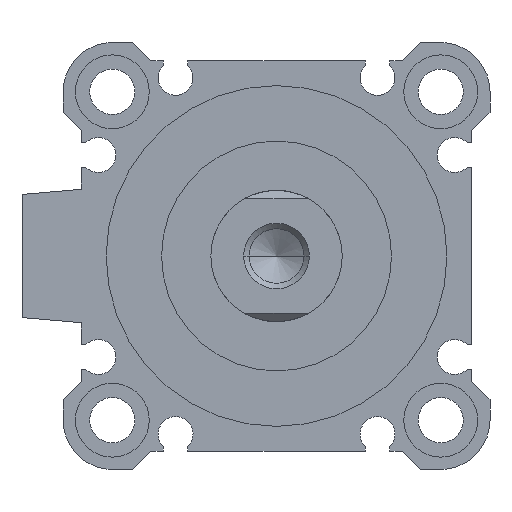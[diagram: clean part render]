
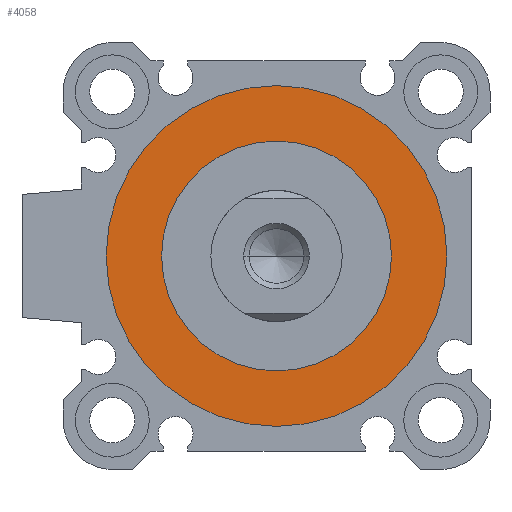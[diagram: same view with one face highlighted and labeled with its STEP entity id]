
A CAD part, left-side view. The second image highlights one B-rep face of the part: STEP entity #4058.
In plain terms, the highlighted planar face has unit normal (-1, 0, 0).
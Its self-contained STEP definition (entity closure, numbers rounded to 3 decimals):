
#44 = EDGE_CURVE ( 'NONE', #1599, #347, #1820, .T. ) ;
#128 = CIRCLE ( 'NONE', #2082, 20.75 ) ;
#277 = CARTESIAN_POINT ( 'NONE',  ( 3.3, 0., 0. ) ) ;
#347 = VERTEX_POINT ( 'NONE', #3490 ) ;
#542 = CARTESIAN_POINT ( 'NONE',  ( 3.3, 0., -14. ) ) ;
#660 = DIRECTION ( 'NONE',  ( 1., 0., 0. ) ) ;
#683 = DIRECTION ( 'NONE',  ( 0., 1., 0. ) ) ;
#803 = DIRECTION ( 'NONE',  ( 1., 0., 0. ) ) ;
#1045 = FACE_OUTER_BOUND ( 'NONE', #2586, .T. ) ;
#1047 = VERTEX_POINT ( 'NONE', #1085 ) ;
#1085 = CARTESIAN_POINT ( 'NONE',  ( 3.3, 0., 14. ) ) ;
#1087 = FACE_BOUND ( 'NONE', #3670, .T. ) ;
#1175 = DIRECTION ( 'NONE',  ( 1., 0., 0. ) ) ;
#1192 = DIRECTION ( 'NONE',  ( 0., 0., -1. ) ) ;
#1247 = AXIS2_PLACEMENT_3D ( 'NONE', #3895, #3481, #1580 ) ;
#1580 = DIRECTION ( 'NONE',  ( 0., 0., -1. ) ) ;
#1599 = VERTEX_POINT ( 'NONE', #4164 ) ;
#1705 = ORIENTED_EDGE ( 'NONE', *, *, #2866, .T. ) ;
#1807 = ORIENTED_EDGE ( 'NONE', *, *, #44, .F. ) ;
#1820 = CIRCLE ( 'NONE', #1247, 20.75 ) ;
#1899 = PLANE ( 'NONE',  #4076 ) ;
#1907 = DIRECTION ( 'NONE',  ( 0., 0., -1. ) ) ;
#1951 = CIRCLE ( 'NONE', #3249, 14. ) ;
#2082 = AXIS2_PLACEMENT_3D ( 'NONE', #4343, #803, #3992 ) ;
#2146 = ORIENTED_EDGE ( 'NONE', *, *, #2164, .F. ) ;
#2164 = EDGE_CURVE ( 'NONE', #347, #1599, #128, .T. ) ;
#2505 = VERTEX_POINT ( 'NONE', #542 ) ;
#2586 = EDGE_LOOP ( 'NONE', ( #1807, #2146 ) ) ;
#2866 = EDGE_CURVE ( 'NONE', #2505, #1047, #1951, .T. ) ;
#2905 = ORIENTED_EDGE ( 'NONE', *, *, #4191, .T. ) ;
#3145 = DIRECTION ( 'NONE',  ( 1., 0., 0. ) ) ;
#3249 = AXIS2_PLACEMENT_3D ( 'NONE', #4045, #1175, #1907 ) ;
#3413 = AXIS2_PLACEMENT_3D ( 'NONE', #4670, #3145, #1192 ) ;
#3481 = DIRECTION ( 'NONE',  ( 1., 0., 0. ) ) ;
#3490 = CARTESIAN_POINT ( 'NONE',  ( 3.3, 0., -20.75 ) ) ;
#3670 = EDGE_LOOP ( 'NONE', ( #2905, #1705 ) ) ;
#3895 = CARTESIAN_POINT ( 'NONE',  ( 3.3, 0., 0. ) ) ;
#3992 = DIRECTION ( 'NONE',  ( 0., 0., -1. ) ) ;
#4045 = CARTESIAN_POINT ( 'NONE',  ( 3.3, 0., 0. ) ) ;
#4058 = ADVANCED_FACE ( 'NONE', ( #1045, #1087 ), #1899, .F. ) ;
#4076 = AXIS2_PLACEMENT_3D ( 'NONE', #277, #660, #683 ) ;
#4164 = CARTESIAN_POINT ( 'NONE',  ( 3.3, 0., 20.75 ) ) ;
#4191 = EDGE_CURVE ( 'NONE', #1047, #2505, #4881, .T. ) ;
#4343 = CARTESIAN_POINT ( 'NONE',  ( 3.3, 0., 0. ) ) ;
#4670 = CARTESIAN_POINT ( 'NONE',  ( 3.3, 0., 0. ) ) ;
#4881 = CIRCLE ( 'NONE', #3413, 14. ) ;
